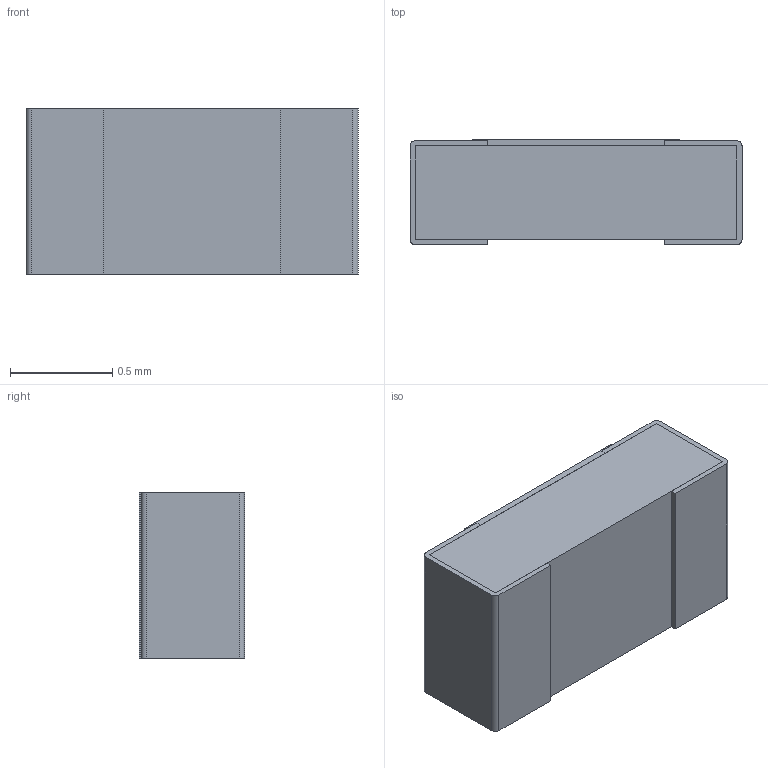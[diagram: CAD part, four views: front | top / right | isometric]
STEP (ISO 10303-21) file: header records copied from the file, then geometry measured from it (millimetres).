
FILE_DESCRIPTION(/* description */ (''),/* implementation_level */ '2;1');
FILE_NAME(/* name */ 'C:\Users\Public\Documents\Autodesk\Inventor LT 2014\Workspace\Vishay\STEP Files\M55342-12.stp',/* time_stamp */ '2019-09-11T15:09:44-05:00',/* author */ ('Neil'),/* organization */ (''),/* preprocessor_version */ 'ST-DEVELOPER v15.2',/* originating_system */ 'Autodesk Inventor LT ',/* authorisation */ '');
FILE_SCHEMA (('AUTOMOTIVE_DESIGN { 1 0 10303 214 3 1 1 }'));
Length unit declared in the file: inch
Products named in the file (1): M55342-12
Bounding box: 1.63 x 0.52 x 0.81 mm (x, y, z)
Volume: 0.7 mm3; surface area: 11.7 mm2
Topology: 5 solids, 5 shells, 50 faces, 120 edges, 80 vertices
Faces by surface type: plane 46, cylinder 4
Entity records: 1482 total; most frequent: CARTESIAN_POINT 251, ORIENTED_EDGE 240, DIRECTION 230, EDGE_CURVE 120, LINE 112, VECTOR 112, VERTEX_POINT 80, AXIS2_PLACEMENT_3D 59
